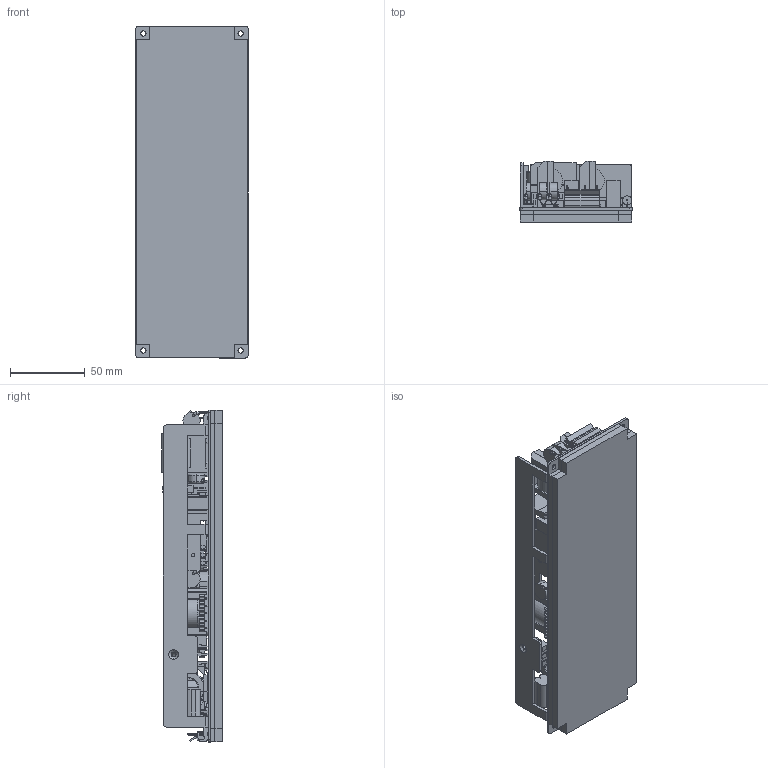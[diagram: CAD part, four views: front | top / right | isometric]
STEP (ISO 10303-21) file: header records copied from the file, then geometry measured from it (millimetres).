
FILE_DESCRIPTION (( 'STEP AP214' ), '1' );
FILE_NAME ('ZWD100PAF_OUTLINE.STEP', '2007-03-07T04:40:10', ( ' ' ), ( ' ' ), 'SwSTEP 2.0', 'SolidWorks 2007', '' );
FILE_SCHEMA (( 'AUTOMOTIVE_DESIGN' ));
Length unit declared in the file: millimetre
Products named in the file (1): ZWD100PAF_OUTLINE
Bounding box: 75 x 40.6 x 222 mm (x, y, z)
Volume: 297757 mm3; surface area: 151849.8 mm2
Topology: 3 solids, 6 shells, 2226 faces, 6185 edges, 4042 vertices
Faces by surface type: plane 1244, cylinder 874, bspline 102, cone 6
Entity records: 98817 total; most frequent: CARTESIAN_POINT 15784, ORIENTED_EDGE 12362, DIRECTION 12188, EDGE_CURVE 6181, AXIS2_PLACEMENT_3D 4100, VERTEX_POINT 4042, VECTOR 3988, LINE 3988
